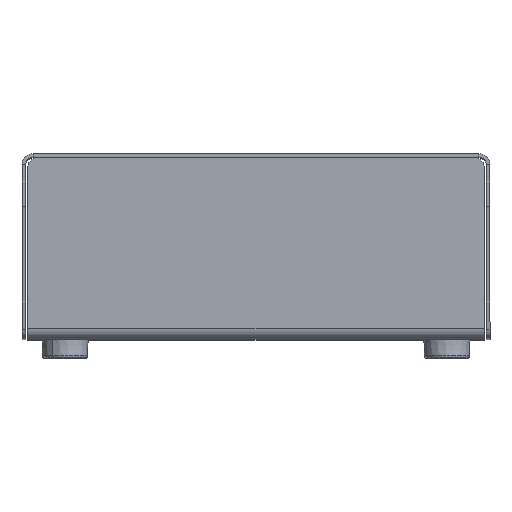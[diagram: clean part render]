
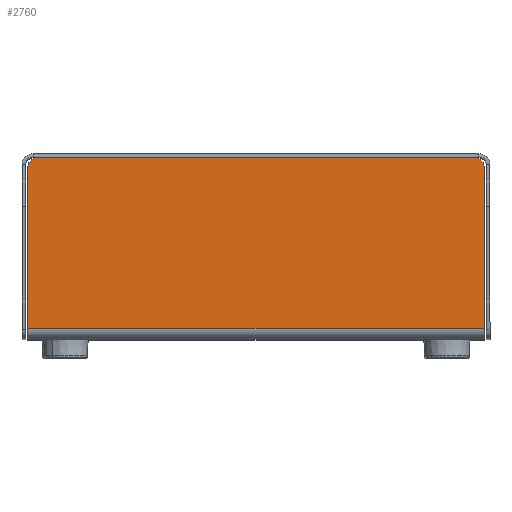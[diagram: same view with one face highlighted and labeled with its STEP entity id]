
A CAD part, top view. The second image highlights one B-rep face of the part: STEP entity #2760.
In plain terms, the highlighted planar face has unit normal (0, 0, 1).
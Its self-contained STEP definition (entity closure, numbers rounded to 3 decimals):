
#33 = DIRECTION ( 'NONE',  ( -1., 0., 0. ) ) ;
#57 = CARTESIAN_POINT ( 'NONE',  ( -62.15, 0., 59.65 ) ) ;
#347 = CIRCLE ( 'NONE', #5667, 3. ) ;
#403 = ORIENTED_EDGE ( 'NONE', *, *, #3629, .T. ) ;
#435 = CARTESIAN_POINT ( 'NONE',  ( 59.15, 45.5, 59.65 ) ) ;
#568 = LINE ( 'NONE', #5370, #4521 ) ;
#664 = DIRECTION ( 'NONE',  ( 0., -1., 0. ) ) ;
#781 = LINE ( 'NONE', #3960, #10132 ) ;
#1136 = CARTESIAN_POINT ( 'NONE',  ( -62.15, 2., 59.65 ) ) ;
#1169 = VERTEX_POINT ( 'NONE', #1136 ) ;
#1311 = ORIENTED_EDGE ( 'NONE', *, *, #3191, .T. ) ;
#1622 = DIRECTION ( 'NONE',  ( 0., 0., -1. ) ) ;
#2760 = ADVANCED_FACE ( 'NONE', ( #8702 ), #5497, .F. ) ;
#3080 = EDGE_CURVE ( 'NONE', #9428, #9183, #347, .T. ) ;
#3191 = EDGE_CURVE ( 'NONE', #8100, #9428, #781, .T. ) ;
#3276 = AXIS2_PLACEMENT_3D ( 'NONE', #435, #5897, #5029 ) ;
#3289 = CARTESIAN_POINT ( 'NONE',  ( 59.15, 48.5, 59.65 ) ) ;
#3629 = EDGE_CURVE ( 'NONE', #9183, #1169, #7077, .T. ) ;
#3728 = AXIS2_PLACEMENT_3D ( 'NONE', #4714, #1622, #33 ) ;
#3960 = CARTESIAN_POINT ( 'NONE',  ( 0., 48.5, 59.65 ) ) ;
#4046 = CARTESIAN_POINT ( 'NONE',  ( 62.15, 2., 59.65 ) ) ;
#4103 = LINE ( 'NONE', #7277, #8824 ) ;
#4416 = VECTOR ( 'NONE', #664, 1000. ) ;
#4444 = DIRECTION ( 'NONE',  ( 0., 0., 1. ) ) ;
#4521 = VECTOR ( 'NONE', #8525, 1000. ) ;
#4714 = CARTESIAN_POINT ( 'NONE',  ( 0., 0., 59.65 ) ) ;
#4749 = DIRECTION ( 'NONE',  ( -1., 0., 0. ) ) ;
#5029 = DIRECTION ( 'NONE',  ( -1., 0., 0. ) ) ;
#5370 = CARTESIAN_POINT ( 'NONE',  ( -62.15, 2., 59.65 ) ) ;
#5497 = PLANE ( 'NONE',  #3728 ) ;
#5667 = AXIS2_PLACEMENT_3D ( 'NONE', #9999, #4444, #7607 ) ;
#5897 = DIRECTION ( 'NONE',  ( 0., 0., 1. ) ) ;
#5911 = EDGE_CURVE ( 'NONE', #7602, #1169, #568, .T. ) ;
#6028 = EDGE_CURVE ( 'NONE', #7602, #8126, #4103, .T. ) ;
#6127 = ORIENTED_EDGE ( 'NONE', *, *, #5911, .F. ) ;
#6502 = DIRECTION ( 'NONE',  ( 0., 1., 0. ) ) ;
#7077 = LINE ( 'NONE', #57, #4416 ) ;
#7277 = CARTESIAN_POINT ( 'NONE',  ( 62.15, 0., 59.65 ) ) ;
#7282 = EDGE_LOOP ( 'NONE', ( #1311, #8483, #403, #6127, #7568, #7764 ) ) ;
#7568 = ORIENTED_EDGE ( 'NONE', *, *, #6028, .T. ) ;
#7602 = VERTEX_POINT ( 'NONE', #4046 ) ;
#7607 = DIRECTION ( 'NONE',  ( -1., 0., 0. ) ) ;
#7612 = CARTESIAN_POINT ( 'NONE',  ( -59.15, 48.5, 59.65 ) ) ;
#7764 = ORIENTED_EDGE ( 'NONE', *, *, #8500, .T. ) ;
#8100 = VERTEX_POINT ( 'NONE', #3289 ) ;
#8126 = VERTEX_POINT ( 'NONE', #8174 ) ;
#8174 = CARTESIAN_POINT ( 'NONE',  ( 62.15, 45.5, 59.65 ) ) ;
#8483 = ORIENTED_EDGE ( 'NONE', *, *, #3080, .T. ) ;
#8500 = EDGE_CURVE ( 'NONE', #8126, #8100, #9097, .T. ) ;
#8525 = DIRECTION ( 'NONE',  ( -1., 0., 0. ) ) ;
#8702 = FACE_OUTER_BOUND ( 'NONE', #7282, .T. ) ;
#8710 = CARTESIAN_POINT ( 'NONE',  ( -62.15, 45.5, 59.65 ) ) ;
#8824 = VECTOR ( 'NONE', #6502, 1000. ) ;
#9097 = CIRCLE ( 'NONE', #3276, 3. ) ;
#9183 = VERTEX_POINT ( 'NONE', #8710 ) ;
#9428 = VERTEX_POINT ( 'NONE', #7612 ) ;
#9999 = CARTESIAN_POINT ( 'NONE',  ( -59.15, 45.5, 59.65 ) ) ;
#10132 = VECTOR ( 'NONE', #4749, 1000. ) ;
